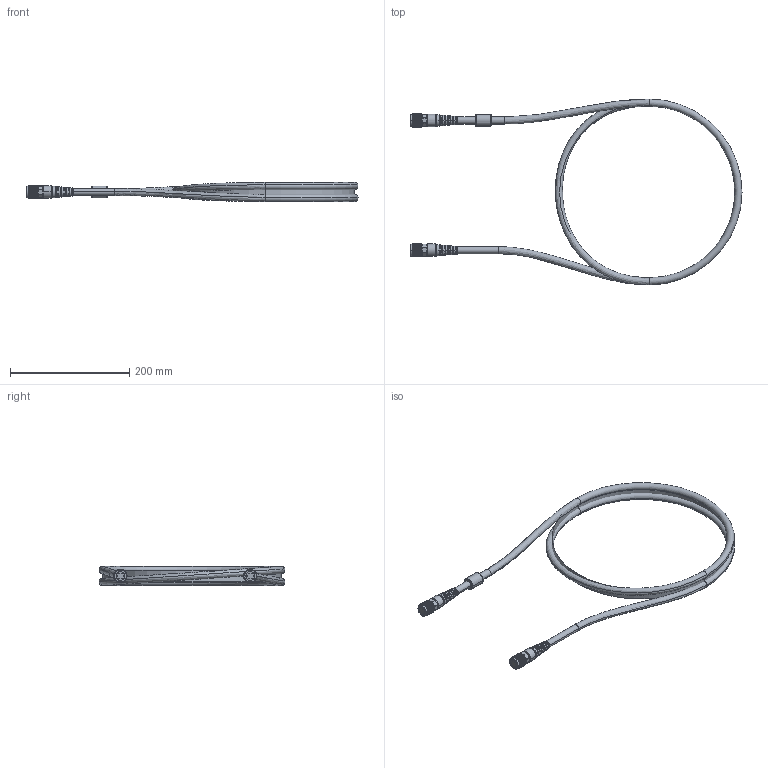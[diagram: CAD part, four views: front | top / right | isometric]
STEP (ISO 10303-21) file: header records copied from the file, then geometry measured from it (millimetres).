
FILE_DESCRIPTION((''),'2;1');
FILE_NAME('IQI-CABLE-2M_ASM','2025-03-27T15:25:52',('robinsonzhou'),(''),'CREO PARAMETRIC BY PTC INC, 2023494','CREO PARAMETRIC BY PTC INC, 2023494','');
FILE_SCHEMA(('CONFIG_CONTROL_DESIGN'));
Length unit declared in the file: millimetre
Products named in the file (4): TP-IQI-CABLE-T; TP-IQI-CABLE-L; TP-IQI-CABLE-M; IQI-CABLE-2M_ASM
Assembly tree (4 placements, depth 2):
  IQI-CABLE-2M_ASM
    TP-IQI-CABLE-T  x2
    TP-IQI-CABLE-L
    TP-IQI-CABLE-M
Bounding box: 557 x 312 x 32 mm (x, y, z)
Volume: 282245.4 mm3; surface area: 113240.1 mm2
Topology: 3 solids, 5 shells, 6803 faces, 18206 edges, 11462 vertices
Faces by surface type: bspline 4142, cylinder 2368, plane 217, torus 68, cone 8
Entity records: 203418 total; most frequent: CARTESIAN_POINT 142779, ORIENTED_EDGE 18258, EDGE_CURVE 9132, B_SPLINE_CURVE_WITH_KNOTS 8190, VERTEX_POINT 5748, DIRECTION 4326, EDGE_LOOP 3443, FACE_OUTER_BOUND 3416
